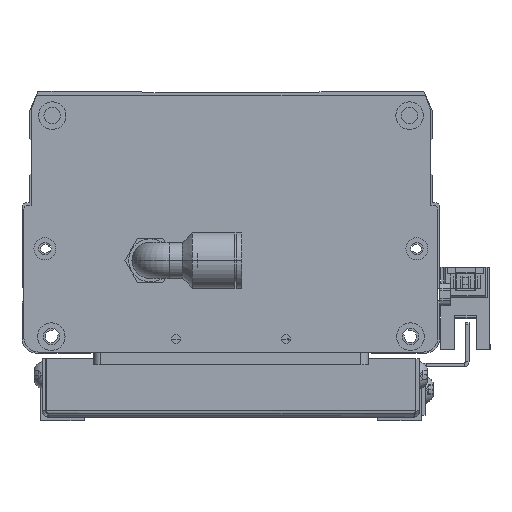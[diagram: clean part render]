
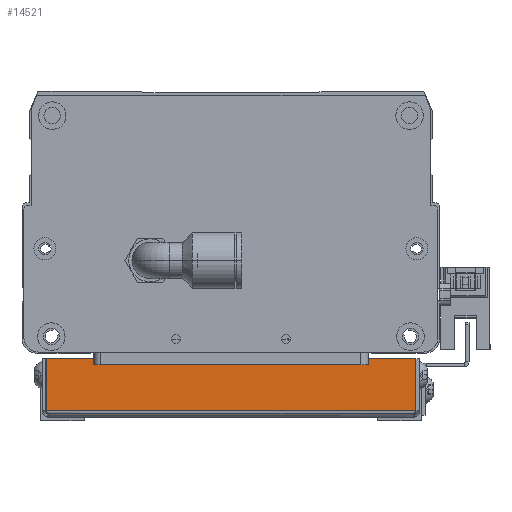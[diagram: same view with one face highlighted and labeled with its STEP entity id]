
A CAD part, front view. The second image highlights one B-rep face of the part: STEP entity #14521.
In plain terms, the highlighted planar face has unit normal (0, -1, 0) as drawn and (0, 0, -1) by its records, which use the part's own axes.
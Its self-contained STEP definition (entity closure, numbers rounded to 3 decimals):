
#2156 = EDGE_CURVE ( 'NONE', #14000, #5440, #5888, .T. ) ;
#2543 = EDGE_CURVE ( 'NONE', #14000, #15529, #26839, .T. ) ;
#3254 = EDGE_CURVE ( 'NONE', #18921, #5440, #8026, .T. ) ;
#3831 = CARTESIAN_POINT ( 'NONE',  ( 83.272, 142.76, -9.273 ) ) ;
#5064 = AXIS2_PLACEMENT_3D ( 'NONE', #8612, #8306, #24730 ) ;
#5329 = DIRECTION ( 'NONE',  ( 0., -1., 0. ) ) ;
#5440 = VERTEX_POINT ( 'NONE', #19620 ) ;
#5888 = LINE ( 'NONE', #14518, #30140 ) ;
#7624 = FACE_OUTER_BOUND ( 'NONE', #27891, .T. ) ;
#7987 = CARTESIAN_POINT ( 'NONE',  ( 83.172, 128.497, -9.273 ) ) ;
#8026 = LINE ( 'NONE', #7987, #11342 ) ;
#8294 = DIRECTION ( 'NONE',  ( 1., 0., 0. ) ) ;
#8306 = DIRECTION ( 'NONE',  ( 0., 0., 1. ) ) ;
#8612 = CARTESIAN_POINT ( 'NONE',  ( 262.181, 144.497, -9.273 ) ) ;
#8761 = CARTESIAN_POINT ( 'NONE',  ( 184.072, 142.76, -9.273 ) ) ;
#8853 = VECTOR ( 'NONE', #19651, 1000. ) ;
#11342 = VECTOR ( 'NONE', #8294, 1000. ) ;
#11728 = ORIENTED_EDGE ( 'NONE', *, *, #3254, .F. ) ;
#12542 = EDGE_CURVE ( 'NONE', #15529, #18921, #19519, .T. ) ;
#14000 = VERTEX_POINT ( 'NONE', #8761 ) ;
#14518 = CARTESIAN_POINT ( 'NONE',  ( 184.072, 142.76, -9.273 ) ) ;
#14521 = ADVANCED_FACE ( 'NONE', ( #7624 ), #29230, .F. ) ;
#15529 = VERTEX_POINT ( 'NONE', #3831 ) ;
#17024 = DIRECTION ( 'NONE',  ( -1., 0., 0. ) ) ;
#18921 = VERTEX_POINT ( 'NONE', #20605 ) ;
#19519 = LINE ( 'NONE', #26526, #8853 ) ;
#19620 = CARTESIAN_POINT ( 'NONE',  ( 184.072, 128.497, -9.273 ) ) ;
#19651 = DIRECTION ( 'NONE',  ( 0., -1., 0. ) ) ;
#20584 = VECTOR ( 'NONE', #17024, 1000. ) ;
#20605 = CARTESIAN_POINT ( 'NONE',  ( 83.272, 128.497, -9.273 ) ) ;
#21061 = ORIENTED_EDGE ( 'NONE', *, *, #2543, .F. ) ;
#22375 = ORIENTED_EDGE ( 'NONE', *, *, #12542, .F. ) ;
#22660 = ORIENTED_EDGE ( 'NONE', *, *, #2156, .T. ) ;
#24730 = DIRECTION ( 'NONE',  ( 0., -1., 0. ) ) ;
#26246 = CARTESIAN_POINT ( 'NONE',  ( 262.181, 142.76, -9.273 ) ) ;
#26526 = CARTESIAN_POINT ( 'NONE',  ( 83.272, 142.76, -9.273 ) ) ;
#26839 = LINE ( 'NONE', #26246, #20584 ) ;
#27891 = EDGE_LOOP ( 'NONE', ( #21061, #22660, #11728, #22375 ) ) ;
#29230 = PLANE ( 'NONE',  #5064 ) ;
#30140 = VECTOR ( 'NONE', #5329, 1000. ) ;
